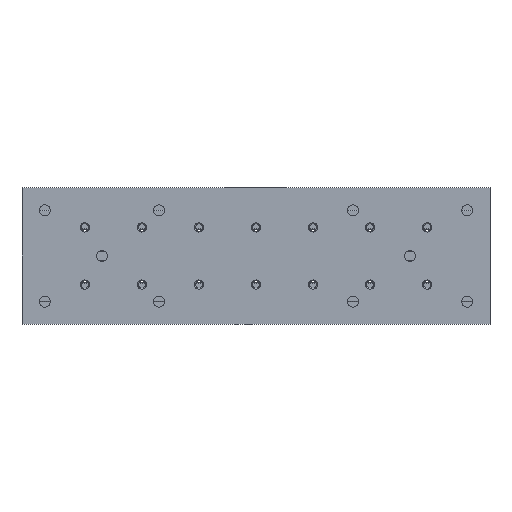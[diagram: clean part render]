
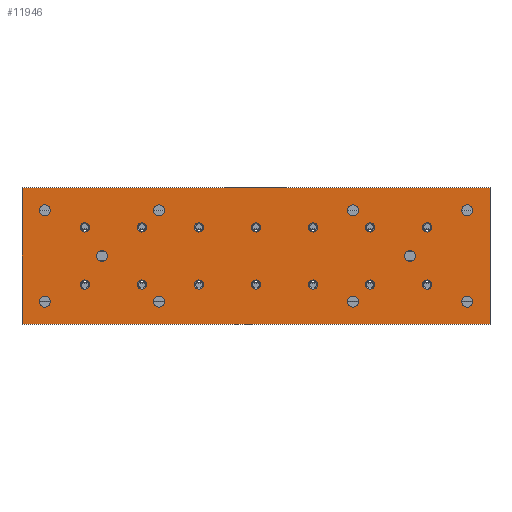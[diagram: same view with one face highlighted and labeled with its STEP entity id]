
A CAD part, front view. The second image highlights one B-rep face of the part: STEP entity #11946.
In plain terms, the highlighted planar face has unit normal (0, -1, 0).
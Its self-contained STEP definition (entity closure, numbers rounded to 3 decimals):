
#426=CIRCLE('',#12672,2.);
#427=CIRCLE('',#12673,2.);
#428=CIRCLE('',#12674,2.);
#429=CIRCLE('',#12675,2.);
#430=CIRCLE('',#12676,2.);
#431=CIRCLE('',#12677,2.);
#432=CIRCLE('',#12678,2.);
#433=CIRCLE('',#12679,2.);
#434=CIRCLE('',#12680,2.);
#435=CIRCLE('',#12681,2.);
#436=CIRCLE('',#12682,2.);
#437=CIRCLE('',#12683,2.);
#438=CIRCLE('',#12684,2.);
#439=CIRCLE('',#12685,2.);
#440=CIRCLE('',#12686,2.4);
#441=CIRCLE('',#12687,2.4);
#442=CIRCLE('',#12688,2.4);
#443=CIRCLE('',#12689,2.4);
#444=CIRCLE('',#12690,2.4);
#445=CIRCLE('',#12691,2.4);
#446=CIRCLE('',#12692,2.4);
#447=CIRCLE('',#12693,2.4);
#448=CIRCLE('',#12694,2.4);
#449=CIRCLE('',#12695,2.4);
#1260=ORIENTED_EDGE('',*,*,#4829,.F.);
#1261=ORIENTED_EDGE('',*,*,#4830,.F.);
#1262=ORIENTED_EDGE('',*,*,#4831,.F.);
#1263=ORIENTED_EDGE('',*,*,#4832,.F.);
#1264=ORIENTED_EDGE('',*,*,#4833,.F.);
#1265=ORIENTED_EDGE('',*,*,#4834,.F.);
#1266=ORIENTED_EDGE('',*,*,#4835,.F.);
#1267=ORIENTED_EDGE('',*,*,#4836,.F.);
#1268=ORIENTED_EDGE('',*,*,#4837,.F.);
#1269=ORIENTED_EDGE('',*,*,#4838,.F.);
#1270=ORIENTED_EDGE('',*,*,#4839,.F.);
#1271=ORIENTED_EDGE('',*,*,#4840,.F.);
#1272=ORIENTED_EDGE('',*,*,#4841,.F.);
#1273=ORIENTED_EDGE('',*,*,#4842,.F.);
#1274=ORIENTED_EDGE('',*,*,#4843,.F.);
#1275=ORIENTED_EDGE('',*,*,#4844,.F.);
#1276=ORIENTED_EDGE('',*,*,#4845,.F.);
#1277=ORIENTED_EDGE('',*,*,#4846,.F.);
#1278=ORIENTED_EDGE('',*,*,#4847,.F.);
#1279=ORIENTED_EDGE('',*,*,#4848,.F.);
#1280=ORIENTED_EDGE('',*,*,#4849,.T.);
#1281=ORIENTED_EDGE('',*,*,#4850,.F.);
#1282=ORIENTED_EDGE('',*,*,#4851,.F.);
#1283=ORIENTED_EDGE('',*,*,#4852,.F.);
#1284=ORIENTED_EDGE('',*,*,#4803,.T.);
#1285=ORIENTED_EDGE('',*,*,#4853,.F.);
#1286=ORIENTED_EDGE('',*,*,#4854,.F.);
#1287=ORIENTED_EDGE('',*,*,#4827,.T.);
#4803=EDGE_CURVE('',#6590,#6589,#7811,.T.);
#4827=EDGE_CURVE('',#6612,#6590,#7835,.T.);
#4829=EDGE_CURVE('',#6613,#6613,#426,.T.);
#4830=EDGE_CURVE('',#6614,#6614,#427,.T.);
#4831=EDGE_CURVE('',#6615,#6615,#428,.T.);
#4832=EDGE_CURVE('',#6616,#6616,#429,.T.);
#4833=EDGE_CURVE('',#6617,#6617,#430,.T.);
#4834=EDGE_CURVE('',#6618,#6618,#431,.T.);
#4835=EDGE_CURVE('',#6619,#6619,#432,.T.);
#4836=EDGE_CURVE('',#6620,#6620,#433,.T.);
#4837=EDGE_CURVE('',#6621,#6621,#434,.T.);
#4838=EDGE_CURVE('',#6622,#6622,#435,.T.);
#4839=EDGE_CURVE('',#6623,#6623,#436,.T.);
#4840=EDGE_CURVE('',#6624,#6624,#437,.T.);
#4841=EDGE_CURVE('',#6625,#6625,#438,.T.);
#4842=EDGE_CURVE('',#6626,#6626,#439,.T.);
#4843=EDGE_CURVE('',#6627,#6627,#440,.T.);
#4844=EDGE_CURVE('',#6628,#6628,#441,.T.);
#4845=EDGE_CURVE('',#6629,#6629,#442,.T.);
#4846=EDGE_CURVE('',#6630,#6630,#443,.T.);
#4847=EDGE_CURVE('',#6631,#6631,#444,.T.);
#4848=EDGE_CURVE('',#6632,#6632,#445,.T.);
#4849=EDGE_CURVE('',#6633,#6633,#446,.T.);
#4850=EDGE_CURVE('',#6634,#6634,#447,.T.);
#4851=EDGE_CURVE('',#6635,#6635,#448,.T.);
#4852=EDGE_CURVE('',#6636,#6636,#449,.T.);
#4853=EDGE_CURVE('',#6637,#6589,#7837,.T.);
#4854=EDGE_CURVE('',#6612,#6637,#7838,.T.);
#6589=VERTEX_POINT('',#18170);
#6590=VERTEX_POINT('',#18172);
#6612=VERTEX_POINT('',#18221);
#6613=VERTEX_POINT('',#18225);
#6614=VERTEX_POINT('',#18227);
#6615=VERTEX_POINT('',#18229);
#6616=VERTEX_POINT('',#18231);
#6617=VERTEX_POINT('',#18233);
#6618=VERTEX_POINT('',#18235);
#6619=VERTEX_POINT('',#18237);
#6620=VERTEX_POINT('',#18239);
#6621=VERTEX_POINT('',#18241);
#6622=VERTEX_POINT('',#18243);
#6623=VERTEX_POINT('',#18245);
#6624=VERTEX_POINT('',#18247);
#6625=VERTEX_POINT('',#18249);
#6626=VERTEX_POINT('',#18251);
#6627=VERTEX_POINT('',#18253);
#6628=VERTEX_POINT('',#18255);
#6629=VERTEX_POINT('',#18257);
#6630=VERTEX_POINT('',#18259);
#6631=VERTEX_POINT('',#18261);
#6632=VERTEX_POINT('',#18263);
#6633=VERTEX_POINT('',#18265);
#6634=VERTEX_POINT('',#18267);
#6635=VERTEX_POINT('',#18269);
#6636=VERTEX_POINT('',#18271);
#6637=VERTEX_POINT('',#18273);
#7811=LINE('',#18171,#8847);
#7835=LINE('',#18220,#8871);
#7837=LINE('',#18272,#8873);
#7838=LINE('',#18274,#8874);
#8847=VECTOR('',#14184,1000.);
#8871=VECTOR('',#14214,1000.);
#8873=VECTOR('',#14266,1000.);
#8874=VECTOR('',#14267,1000.);
#9839=EDGE_LOOP('',(#1260));
#9840=EDGE_LOOP('',(#1261));
#9841=EDGE_LOOP('',(#1262));
#9842=EDGE_LOOP('',(#1263));
#9843=EDGE_LOOP('',(#1264));
#9844=EDGE_LOOP('',(#1265));
#9845=EDGE_LOOP('',(#1266));
#9846=EDGE_LOOP('',(#1267));
#9847=EDGE_LOOP('',(#1268));
#9848=EDGE_LOOP('',(#1269));
#9849=EDGE_LOOP('',(#1270));
#9850=EDGE_LOOP('',(#1271));
#9851=EDGE_LOOP('',(#1272));
#9852=EDGE_LOOP('',(#1273));
#9853=EDGE_LOOP('',(#1274));
#9854=EDGE_LOOP('',(#1275));
#9855=EDGE_LOOP('',(#1276));
#9856=EDGE_LOOP('',(#1277));
#9857=EDGE_LOOP('',(#1278));
#9858=EDGE_LOOP('',(#1279));
#9859=EDGE_LOOP('',(#1280));
#9860=EDGE_LOOP('',(#1281));
#9861=EDGE_LOOP('',(#1282));
#9862=EDGE_LOOP('',(#1283));
#9863=EDGE_LOOP('',(#1284,#1285,#1286,#1287));
#10741=FACE_BOUND('',#9839,.T.);
#10742=FACE_BOUND('',#9840,.T.);
#10743=FACE_BOUND('',#9841,.T.);
#10744=FACE_BOUND('',#9842,.T.);
#10745=FACE_BOUND('',#9843,.T.);
#10746=FACE_BOUND('',#9844,.T.);
#10747=FACE_BOUND('',#9845,.T.);
#10748=FACE_BOUND('',#9846,.T.);
#10749=FACE_BOUND('',#9847,.T.);
#10750=FACE_BOUND('',#9848,.T.);
#10751=FACE_BOUND('',#9849,.T.);
#10752=FACE_BOUND('',#9850,.T.);
#10753=FACE_BOUND('',#9851,.T.);
#10754=FACE_BOUND('',#9852,.T.);
#10755=FACE_BOUND('',#9853,.T.);
#10756=FACE_BOUND('',#9854,.T.);
#10757=FACE_BOUND('',#9855,.T.);
#10758=FACE_BOUND('',#9856,.T.);
#10759=FACE_BOUND('',#9857,.T.);
#10760=FACE_BOUND('',#9858,.T.);
#10761=FACE_BOUND('',#9859,.T.);
#10762=FACE_BOUND('',#9860,.T.);
#10763=FACE_BOUND('',#9861,.T.);
#10764=FACE_BOUND('',#9862,.T.);
#10765=FACE_BOUND('',#9863,.T.);
#11643=PLANE('',#12671);
#11946=ADVANCED_FACE('',(#10741,#10742,#10743,#10744,#10745,#10746,#10747,
#10748,#10749,#10750,#10751,#10752,#10753,#10754,#10755,#10756,#10757,#10758,
#10759,#10760,#10761,#10762,#10763,#10764,#10765),#11643,.F.);
#12671=AXIS2_PLACEMENT_3D('',#18223,#14216,#14217);
#12672=AXIS2_PLACEMENT_3D('',#18224,#14218,#14219);
#12673=AXIS2_PLACEMENT_3D('',#18226,#14220,#14221);
#12674=AXIS2_PLACEMENT_3D('',#18228,#14222,#14223);
#12675=AXIS2_PLACEMENT_3D('',#18230,#14224,#14225);
#12676=AXIS2_PLACEMENT_3D('',#18232,#14226,#14227);
#12677=AXIS2_PLACEMENT_3D('',#18234,#14228,#14229);
#12678=AXIS2_PLACEMENT_3D('',#18236,#14230,#14231);
#12679=AXIS2_PLACEMENT_3D('',#18238,#14232,#14233);
#12680=AXIS2_PLACEMENT_3D('',#18240,#14234,#14235);
#12681=AXIS2_PLACEMENT_3D('',#18242,#14236,#14237);
#12682=AXIS2_PLACEMENT_3D('',#18244,#14238,#14239);
#12683=AXIS2_PLACEMENT_3D('',#18246,#14240,#14241);
#12684=AXIS2_PLACEMENT_3D('',#18248,#14242,#14243);
#12685=AXIS2_PLACEMENT_3D('',#18250,#14244,#14245);
#12686=AXIS2_PLACEMENT_3D('',#18252,#14246,#14247);
#12687=AXIS2_PLACEMENT_3D('',#18254,#14248,#14249);
#12688=AXIS2_PLACEMENT_3D('',#18256,#14250,#14251);
#12689=AXIS2_PLACEMENT_3D('',#18258,#14252,#14253);
#12690=AXIS2_PLACEMENT_3D('',#18260,#14254,#14255);
#12691=AXIS2_PLACEMENT_3D('',#18262,#14256,#14257);
#12692=AXIS2_PLACEMENT_3D('',#18264,#14258,#14259);
#12693=AXIS2_PLACEMENT_3D('',#18266,#14260,#14261);
#12694=AXIS2_PLACEMENT_3D('',#18268,#14262,#14263);
#12695=AXIS2_PLACEMENT_3D('',#18270,#14264,#14265);
#14184=DIRECTION('',(0.,0.,-1.));
#14214=DIRECTION('',(-1.,0.,0.));
#14216=DIRECTION('',(0.,1.,0.));
#14217=DIRECTION('',(0.,0.,1.));
#14218=DIRECTION('',(0.,-1.,0.));
#14219=DIRECTION('',(0.,0.,-1.));
#14220=DIRECTION('',(0.,-1.,0.));
#14221=DIRECTION('',(0.,0.,-1.));
#14222=DIRECTION('',(0.,-1.,0.));
#14223=DIRECTION('',(0.,0.,-1.));
#14224=DIRECTION('',(0.,-1.,0.));
#14225=DIRECTION('',(0.,0.,-1.));
#14226=DIRECTION('',(0.,-1.,0.));
#14227=DIRECTION('',(0.,0.,-1.));
#14228=DIRECTION('',(0.,-1.,0.));
#14229=DIRECTION('',(0.,0.,-1.));
#14230=DIRECTION('',(0.,-1.,0.));
#14231=DIRECTION('',(0.,0.,-1.));
#14232=DIRECTION('',(0.,-1.,0.));
#14233=DIRECTION('',(0.,0.,-1.));
#14234=DIRECTION('',(0.,-1.,0.));
#14235=DIRECTION('',(0.,0.,-1.));
#14236=DIRECTION('',(0.,-1.,0.));
#14237=DIRECTION('',(0.,0.,-1.));
#14238=DIRECTION('',(0.,-1.,0.));
#14239=DIRECTION('',(0.,0.,-1.));
#14240=DIRECTION('',(0.,-1.,0.));
#14241=DIRECTION('',(0.,0.,-1.));
#14242=DIRECTION('',(0.,-1.,0.));
#14243=DIRECTION('',(0.,0.,-1.));
#14244=DIRECTION('',(0.,-1.,0.));
#14245=DIRECTION('',(0.,0.,-1.));
#14246=DIRECTION('',(0.,-1.,0.));
#14247=DIRECTION('',(0.,0.,-1.));
#14248=DIRECTION('',(0.,-1.,0.));
#14249=DIRECTION('',(0.,0.,-1.));
#14250=DIRECTION('',(0.,-1.,0.));
#14251=DIRECTION('',(0.,0.,-1.));
#14252=DIRECTION('',(0.,-1.,0.));
#14253=DIRECTION('',(0.,0.,-1.));
#14254=DIRECTION('',(0.,-1.,0.));
#14255=DIRECTION('',(0.,0.,-1.));
#14256=DIRECTION('',(0.,-1.,0.));
#14257=DIRECTION('',(0.,0.,-1.));
#14258=DIRECTION('',(0.,1.,0.));
#14259=DIRECTION('',(0.,0.,1.));
#14260=DIRECTION('',(0.,-1.,0.));
#14261=DIRECTION('',(0.,0.,-1.));
#14262=DIRECTION('',(0.,-1.,0.));
#14263=DIRECTION('',(0.,0.,-1.));
#14264=DIRECTION('',(0.,-1.,0.));
#14265=DIRECTION('',(0.,0.,-1.));
#14266=DIRECTION('',(-1.,0.,0.));
#14267=DIRECTION('',(0.,0.,-1.));
#18170=CARTESIAN_POINT('',(0.,0.,-29.85));
#18171=CARTESIAN_POINT('',(0.,0.,29.85));
#18172=CARTESIAN_POINT('',(0.,0.,29.85));
#18220=CARTESIAN_POINT('',(205.,0.,29.85));
#18221=CARTESIAN_POINT('',(205.,0.,29.85));
#18223=CARTESIAN_POINT('',(205.,0.,29.85));
#18224=CARTESIAN_POINT('',(177.5,0.,-12.5));
#18225=CARTESIAN_POINT('',(177.5,0.,-14.5));
#18226=CARTESIAN_POINT('',(177.5,0.,12.5));
#18227=CARTESIAN_POINT('',(177.5,0.,10.5));
#18228=CARTESIAN_POINT('',(27.5,0.,-12.5));
#18229=CARTESIAN_POINT('',(27.5,0.,-14.5));
#18230=CARTESIAN_POINT('',(27.5,0.,12.5));
#18231=CARTESIAN_POINT('',(27.5,0.,10.5));
#18232=CARTESIAN_POINT('',(52.5,0.,-12.5));
#18233=CARTESIAN_POINT('',(52.5,0.,-14.5));
#18234=CARTESIAN_POINT('',(52.5,0.,12.5));
#18235=CARTESIAN_POINT('',(52.5,0.,10.5));
#18236=CARTESIAN_POINT('',(152.5,0.,-12.5));
#18237=CARTESIAN_POINT('',(152.5,0.,-14.5));
#18238=CARTESIAN_POINT('',(152.5,0.,12.5));
#18239=CARTESIAN_POINT('',(152.5,0.,10.5));
#18240=CARTESIAN_POINT('',(127.5,0.,-12.5));
#18241=CARTESIAN_POINT('',(127.5,0.,-14.5));
#18242=CARTESIAN_POINT('',(127.5,0.,12.5));
#18243=CARTESIAN_POINT('',(127.5,0.,10.5));
#18244=CARTESIAN_POINT('',(77.5,0.,-12.5));
#18245=CARTESIAN_POINT('',(77.5,0.,-14.5));
#18246=CARTESIAN_POINT('',(77.5,0.,12.5));
#18247=CARTESIAN_POINT('',(77.5,0.,10.5));
#18248=CARTESIAN_POINT('',(102.5,0.,-12.5));
#18249=CARTESIAN_POINT('',(102.5,0.,-14.5));
#18250=CARTESIAN_POINT('',(102.5,0.,12.5));
#18251=CARTESIAN_POINT('',(102.5,0.,10.5));
#18252=CARTESIAN_POINT('',(145.,0.,-20.));
#18253=CARTESIAN_POINT('',(145.,0.,-22.4));
#18254=CARTESIAN_POINT('',(145.,0.,20.));
#18255=CARTESIAN_POINT('',(145.,0.,17.6));
#18256=CARTESIAN_POINT('',(60.,0.,-20.));
#18257=CARTESIAN_POINT('',(60.,0.,-22.4));
#18258=CARTESIAN_POINT('',(60.,0.,20.));
#18259=CARTESIAN_POINT('',(60.,0.,17.6));
#18260=CARTESIAN_POINT('',(170.,0.,0.));
#18261=CARTESIAN_POINT('',(170.,0.,-2.4));
#18262=CARTESIAN_POINT('',(35.,0.,0.));
#18263=CARTESIAN_POINT('',(35.,0.,-2.4));
#18264=CARTESIAN_POINT('',(195.,0.,20.));
#18265=CARTESIAN_POINT('',(195.,0.,22.4));
#18266=CARTESIAN_POINT('',(195.,0.,-20.));
#18267=CARTESIAN_POINT('',(195.,0.,-22.4));
#18268=CARTESIAN_POINT('',(10.,0.,-20.));
#18269=CARTESIAN_POINT('',(10.,0.,-22.4));
#18270=CARTESIAN_POINT('',(10.,0.,20.));
#18271=CARTESIAN_POINT('',(10.,0.,17.6));
#18272=CARTESIAN_POINT('',(205.,0.,-29.85));
#18273=CARTESIAN_POINT('',(205.,0.,-29.85));
#18274=CARTESIAN_POINT('',(205.,0.,29.85));
